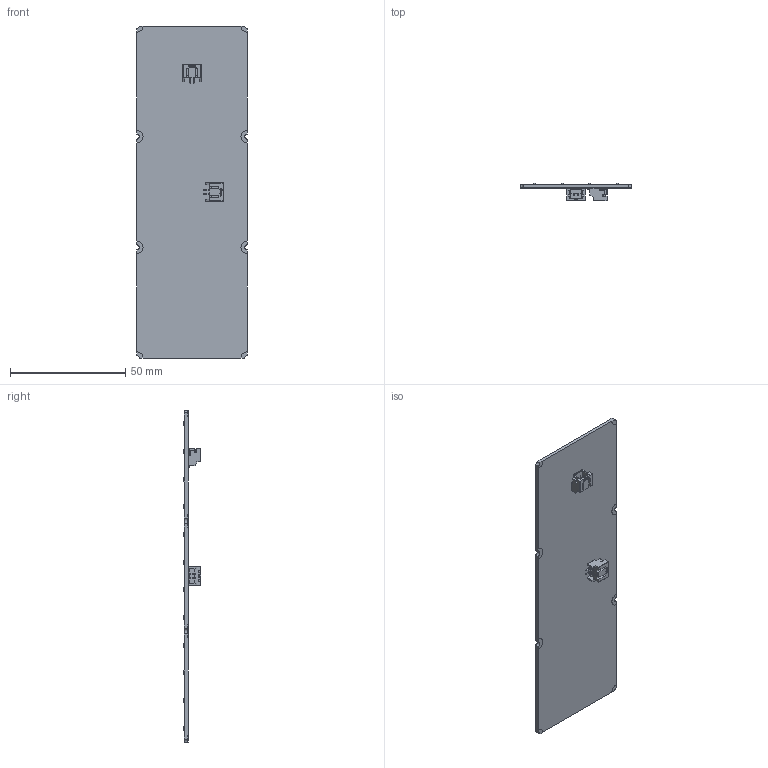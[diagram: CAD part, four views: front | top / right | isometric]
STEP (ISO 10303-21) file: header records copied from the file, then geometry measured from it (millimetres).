
FILE_DESCRIPTION((''),'2;1');
FILE_NAME('ASM0002_ASM','2024-08-05T11:42:11',('qinghui.yi'),(''),'CREO PARAMETRIC BY PTC INC, 2019164','CREO PARAMETRIC BY PTC INC, 2019164','');
FILE_SCHEMA(('CONFIG_CONTROL_DESIGN','SHAPE_APPEARANCE_LAYERS_GROUPS'));
Length unit declared in the file: millimetre
Products named in the file (3): PRT0002; PH2_0; ASM0002_ASM
Assembly tree (3 placements, depth 2):
  ASM0002_ASM
    PRT0002
    PH2_0  x2
Bounding box: 48 x 7.65 x 144 mm (x, y, z)
Volume: 11353.1 mm3; surface area: 15401.1 mm2
Topology: 3 solids, 3 shells, 912 faces, 2598 edges, 1902 vertices
Faces by surface type: plane 632, cylinder 228, torus 24, bspline 16, extrusion 12
Entity records: 23282 total; most frequent: CARTESIAN_POINT 5315, ORIENTED_EDGE 3554, DIRECTION 3358, EDGE_CURVE 1777, VECTOR 1382, LINE 1376, VERTEX_POINT 1219, AXIS2_PLACEMENT_3D 988
